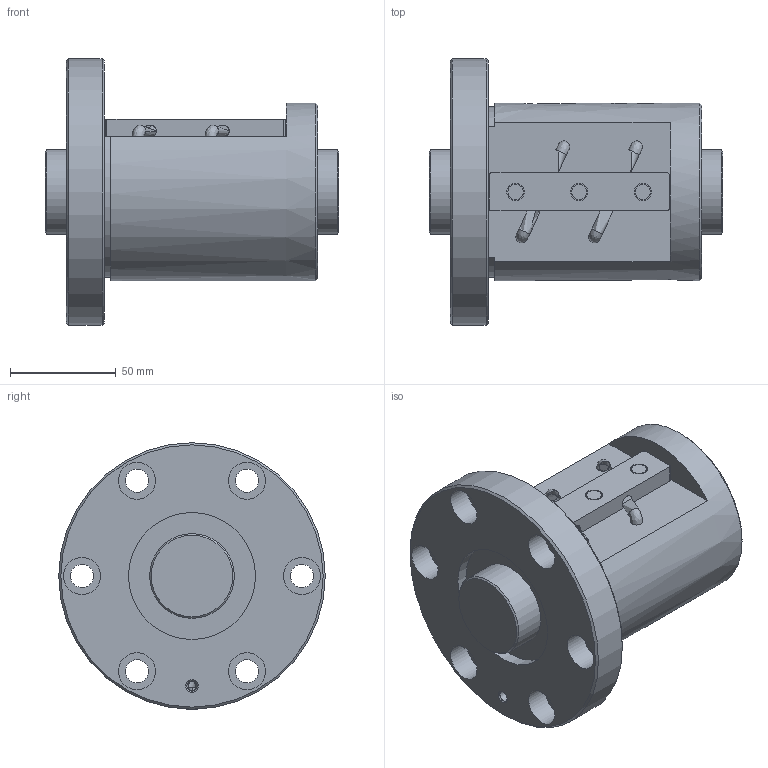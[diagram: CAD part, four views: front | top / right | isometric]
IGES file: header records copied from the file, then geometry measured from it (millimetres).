
Start section: Data from Parasolid IGES Translator 26.0.171, Copyright(c) 2006 Siemens PLM Software. All Rights Reserved.
Global section: file name: BNF4012V-5RRG1+139LC0_000_rev.igs; native system: By Siemens PLM Incorporated; preprocessor: XPlus GENERIC/IGES 26.0.171; author: Noname; organization: Noname; date: 20240806.084120; units: millimetre
Bounding box: 139 x 126 x 126 mm (x, y, z)
Surface area: 100008.7 mm2 (no closed solid volume)
Topology: 0 solids, 0 shells, 79 faces, 346 edges, 304 vertices
Faces by surface type: revolution 50, extrusion 29
